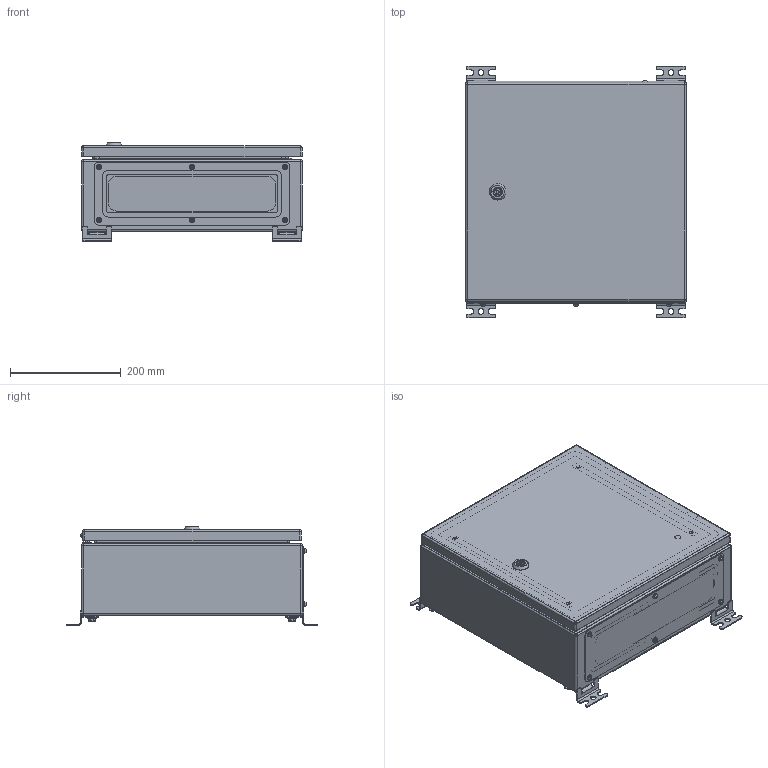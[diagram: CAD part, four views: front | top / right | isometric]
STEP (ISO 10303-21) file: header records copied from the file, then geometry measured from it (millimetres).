
FILE_DESCRIPTION(('STEP AP242'), '1');
FILE_NAME('400 ﾙﾌﾏ-1 (IP-56)', '', ('UNSPECIFIED'), ('UNSPECIFIED'), 'C3D Converter', 'C3D Toolkit', '');
FILE_SCHEMA(('AP242_MANAGED_MODEL_BASED_3D_ENGINEERING_MIM_LF { 1 0 10303 442 1 1 4 }'));
Length unit declared in the file: millimetre
Products named in the file (51): ЩМП-1-ЛФ СБ; 410-ЛФ; 420; 421; 411-Ф; 430-Л; 431-Л; 490; 491; 401.01; 440-Ф; 441-Ф; 402; 403; 450; 451; ЦИУЛ.210677.00.03-03; 452
Assembly tree (124 placements, depth 4):
  ЩМП-1-ЛФ СБ
    410-ЛФ
      420
        421
        (unnamed)  x4
        (unnamed)
      411-Ф
      430-Л
        431-Л
        (unnamed)  x6
    490  x2
      491
      (unnamed)
      (unnamed)
      (unnamed)
      (unnamed)
      (unnamed)
    490  x2
      491
      (unnamed)
      (unnamed)
      (unnamed)
      (unnamed)
      (unnamed)
    401.01
    (unnamed)  x4
    (unnamed)  x4
    (unnamed)  x4
    (unnamed)  x4
    (unnamed)  x2
      (unnamed)
      (unnamed)
      (unnamed)
    (unnamed)  x10
    440-Ф
      441-Ф
      (unnamed)
      (unnamed)  x4
      (unnamed)  x2
    402  x2
    (unnamed)  x4
    (unnamed)  x4
    (unnamed)
      (unnamed)
      (unnamed)
      (unnamed)
      (unnamed)
      (unnamed)
    (unnamed)
    403
    (unnamed)  x6
    (unnamed)  x6
    450
      451
      (unnamed)  x3
      (unnamed)  x2
      (unnamed)  x2
      (unnamed)  x3
      ЦИУЛ.210677.00.03-03
      452
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Bounding box: 400 x 456 x 178.1 mm (x, y, z)
Volume: 1480714.1 mm3; surface area: 1740908.5 mm2
Topology: 131 solids, 131 shells, 2372 faces, 5562 edges, 3513 vertices
Faces by surface type: plane 1372, cylinder 643, cone 240, sphere 37, torus 33, extrusion 27, bspline 20
Full cylindrical faces by diameter (mm): 0.5 x4, 2.6 x4, 3.3 x1, 3.5 x44, 4 x1, 4.134 x9, 4.2 x5, 4.917 x4, 5 x14, 5.3 x2, 5.5 x17, 5.75 x3, 5.8 x1, 6 x23, 6.38 x6, 6.4 x10, 6.647 x8, 7 x6, 7.3 x4, 7.4 x1, 7.5 x6, 7.74 x6, 8 x14, 8.376 x4, 8.4 x8, 8.5 x25, 8.7 x6, 9 x12, 10 x16, 10.4 x1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
Entity records: 71093 total; most frequent: CARTESIAN_POINT 36427, DIRECTION 5662, ORIENTED_EDGE 5416, EDGE_CURVE 2708, AXIS2_PLACEMENT_3D 2072, VERTEX_POINT 1822, EDGE_LOOP 1552, VECTOR 1518
